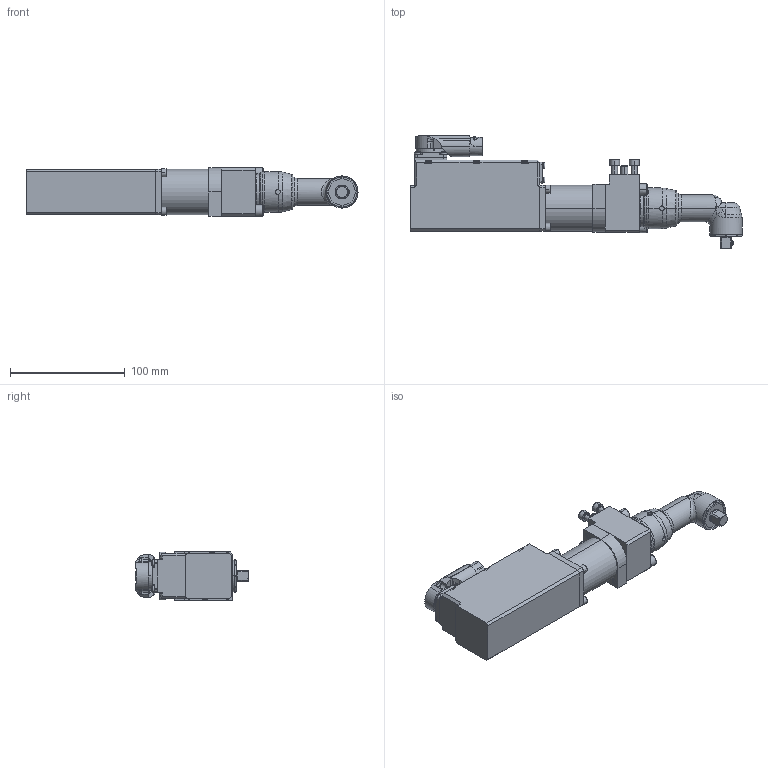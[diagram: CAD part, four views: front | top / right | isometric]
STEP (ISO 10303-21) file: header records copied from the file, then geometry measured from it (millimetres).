
FILE_DESCRIPTION (( 'STEP AP203' ), '1' );
FILE_NAME ('70121609_KSX1023WV38.STEP', '2020-01-15T11:16:51', ( 'admin' ), ( '' ), 'SwSTEP 2.0', 'SolidWorks 2017', '' );
FILE_SCHEMA (( 'CONFIG_CONTROL_DESIGN' ));
Length unit declared in the file: millimetre
Products named in the file (10): 70111035; 70111050; 70111000; 70121609_KSX1023WV38; 70111180_2; 70111180; 70111180_Pos_vorne; 70111000_KSX1_Stecker_vorne; 70111011; 70111005
Assembly tree (9 placements, depth 4):
  70121609_KSX1023WV38
    70111000_KSX1_Stecker_vorne
      70111000
      70111180_Pos_vorne
        70111180_2
        70111180
    70111011
    70111005
    70111035
    70111050
Bounding box: 289.4 x 98.4 x 42.53 mm (x, y, z)
Volume: 494770.5 mm3; surface area: 95431.8 mm2
Topology: 7 solids, 9 shells, 2026 faces, 5148 edges, 3244 vertices
Faces by surface type: cylinder 808, plane 659, cone 322, torus 136, bspline 51, sphere 50
Entity records: 67030 total; most frequent: CARTESIAN_POINT 18296, ORIENTED_EDGE 10156, DIRECTION 9834, EDGE_CURVE 5078, AXIS2_PLACEMENT_3D 3945, VERTEX_POINT 3244, EDGE_LOOP 2216, ADVANCED_FACE 2026
